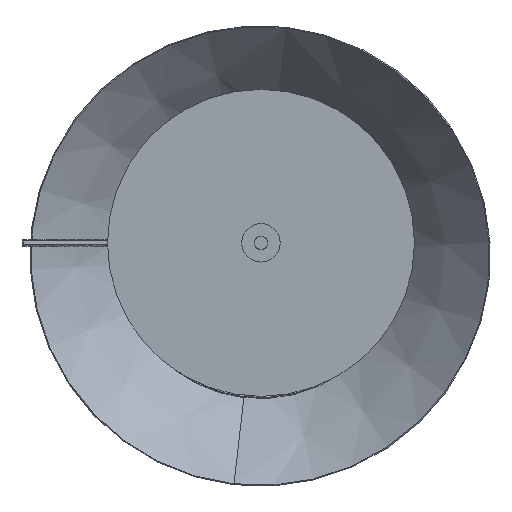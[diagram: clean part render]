
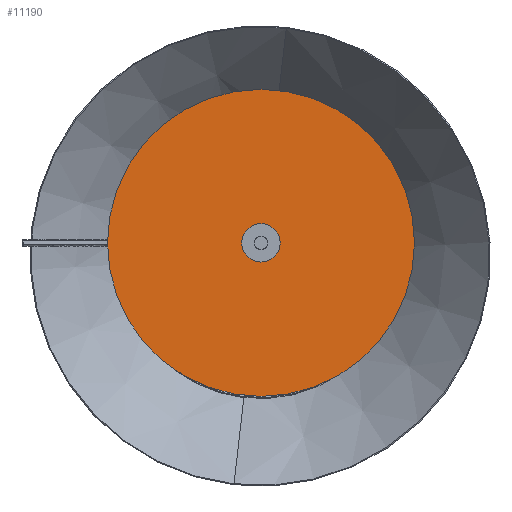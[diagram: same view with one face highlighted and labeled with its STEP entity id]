
A CAD part, front view. The second image highlights one B-rep face of the part: STEP entity #11190.
In plain terms, the highlighted planar face has unit normal (0, -1, 0).
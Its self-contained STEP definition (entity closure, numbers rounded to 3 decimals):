
#1149 = EDGE_CURVE ( 'NONE', #22583, #32274, #11460, .T. ) ;
#1265 = DIRECTION ( 'NONE',  ( 0., -1., 0. ) ) ;
#1608 = DIRECTION ( 'NONE',  ( 0., -1., 0. ) ) ;
#1769 = CARTESIAN_POINT ( 'NONE',  ( 0., 0., 15. ) ) ;
#1912 = AXIS2_PLACEMENT_3D ( 'NONE', #11810, #3532, #20317 ) ;
#3532 = DIRECTION ( 'NONE',  ( 0., 1., 0. ) ) ;
#5688 = ORIENTED_EDGE ( 'NONE', *, *, #7753, .F. ) ;
#5878 = AXIS2_PLACEMENT_3D ( 'NONE', #12587, #1265, #12227 ) ;
#5959 = EDGE_CURVE ( 'NONE', #11010, #23124, #25803, .T. ) ;
#6102 = CARTESIAN_POINT ( 'NONE',  ( 0., 0., -15. ) ) ;
#7753 = EDGE_CURVE ( 'NONE', #32274, #22583, #11791, .T. ) ;
#7756 = AXIS2_PLACEMENT_3D ( 'NONE', #30340, #36024, #33296 ) ;
#9971 = DIRECTION ( 'NONE',  ( 0., 1., 0. ) ) ;
#11010 = VERTEX_POINT ( 'NONE', #6102 ) ;
#11190 = ADVANCED_FACE ( 'NONE', ( #28510, #32052 ), #21036, .F. ) ;
#11460 = CIRCLE ( 'NONE', #1912, 120. ) ;
#11791 = CIRCLE ( 'NONE', #7756, 120. ) ;
#11810 = CARTESIAN_POINT ( 'NONE',  ( 0., 0., 0. ) ) ;
#12227 = DIRECTION ( 'NONE',  ( 0., 0., -1. ) ) ;
#12325 = ORIENTED_EDGE ( 'NONE', *, *, #1149, .F. ) ;
#12587 = CARTESIAN_POINT ( 'NONE',  ( 0., 0., 0. ) ) ;
#15119 = CARTESIAN_POINT ( 'NONE',  ( 0., 0., 0. ) ) ;
#15327 = CARTESIAN_POINT ( 'NONE',  ( 0., 0., 0. ) ) ;
#16629 = CARTESIAN_POINT ( 'NONE',  ( 0., 0., 120. ) ) ;
#17004 = CARTESIAN_POINT ( 'NONE',  ( 0., 0., -120. ) ) ;
#19763 = AXIS2_PLACEMENT_3D ( 'NONE', #15327, #9971, #29622 ) ;
#20317 = DIRECTION ( 'NONE',  ( 0., 0., 1. ) ) ;
#21036 = PLANE ( 'NONE',  #19763 ) ;
#22583 = VERTEX_POINT ( 'NONE', #17004 ) ;
#22619 = ORIENTED_EDGE ( 'NONE', *, *, #31745, .F. ) ;
#22852 = ORIENTED_EDGE ( 'NONE', *, *, #5959, .F. ) ;
#23124 = VERTEX_POINT ( 'NONE', #1769 ) ;
#25803 = CIRCLE ( 'NONE', #5878, 15. ) ;
#26317 = EDGE_LOOP ( 'NONE', ( #12325, #5688 ) ) ;
#26415 = DIRECTION ( 'NONE',  ( 0., 0., -1. ) ) ;
#27809 = AXIS2_PLACEMENT_3D ( 'NONE', #15119, #1608, #26415 ) ;
#28510 = FACE_OUTER_BOUND ( 'NONE', #26317, .T. ) ;
#29560 = CIRCLE ( 'NONE', #27809, 15. ) ;
#29622 = DIRECTION ( 'NONE',  ( 1., 0., 0. ) ) ;
#30340 = CARTESIAN_POINT ( 'NONE',  ( 0., 0., 0. ) ) ;
#31745 = EDGE_CURVE ( 'NONE', #23124, #11010, #29560, .T. ) ;
#32052 = FACE_BOUND ( 'NONE', #32063, .T. ) ;
#32063 = EDGE_LOOP ( 'NONE', ( #22852, #22619 ) ) ;
#32274 = VERTEX_POINT ( 'NONE', #16629 ) ;
#33296 = DIRECTION ( 'NONE',  ( 0., 0., 1. ) ) ;
#36024 = DIRECTION ( 'NONE',  ( 0., 1., 0. ) ) ;
